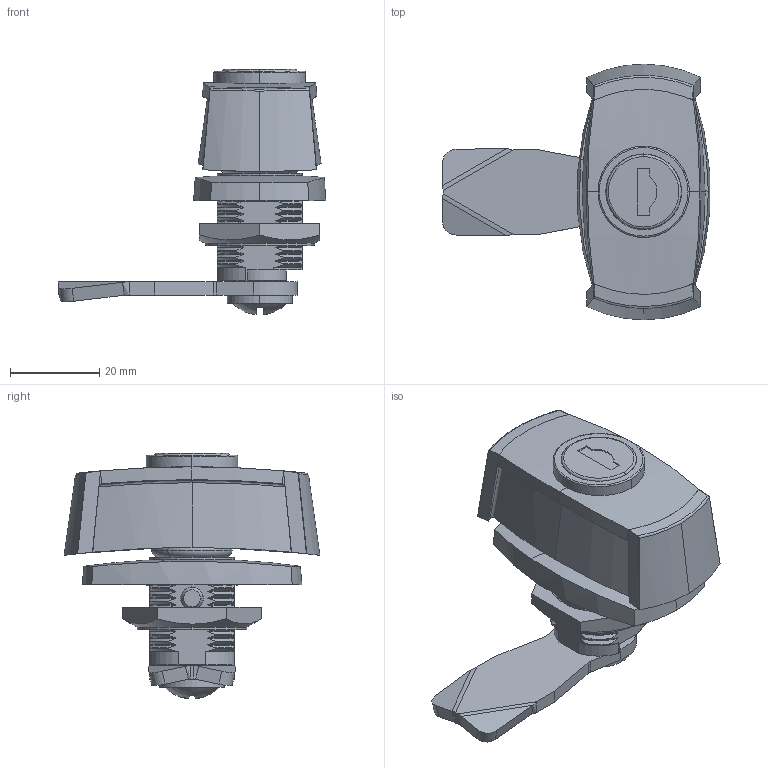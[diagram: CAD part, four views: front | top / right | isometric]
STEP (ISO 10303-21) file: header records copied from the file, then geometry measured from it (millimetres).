
FILE_DESCRIPTION (( 'STEP AP214' ), '1' );
FILE_NAME ('RW300.STEP', '2016-09-08T11:25:18', ( '' ), ( '' ), 'SwSTEP 2.0', 'SolidWorks 2015', '' );
FILE_SCHEMA (( 'AUTOMOTIVE_DESIGN' ));
Length unit declared in the file: millimetre
Products named in the file (13): 2.NKR_M22 - A1; 1C.J-1XX.GH.L_#3, 1.00.18.45; 1B.RW300.02.02.01_B; 1B.RW300.01.03.00_B; DIN 967_M6x12; DIN 915_M3 x 5; DIN 3771_12x3; 2.B.002_R.1333; 2.PM18.001.03_A; 1B.RW200.01_B; 1B.RW200.02.02.00_B; 1B.RW200.00.01_A; RW300
Assembly tree (12 placements, depth 3):
  RW300
    1B.RW200.01_B
      1B.RW200.00.01_A
      1B.RW200.02.02.00_B
    2.PM18.001.03_A
    2.B.002_R.1333
    DIN 3771_12x3
    DIN 915_M3 x 5
    DIN 967_M6x12
    1B.RW300.01.03.00_B
    1B.RW300.02.02.01_B
    1C.J-1XX.GH.L_#3, 1.00.18.45
    2.NKR_M22 - A1
Bounding box: 59.96 x 57.35 x 54.98 mm (x, y, z)
Volume: 39170.1 mm3; surface area: 23260.5 mm2
Topology: 11 solids, 11 shells, 675 faces, 1829 edges, 1168 vertices
Faces by surface type: plane 223, bspline 167, cylinder 151, cone 124, torus 8, sphere 2
Entity records: 32540 total; most frequent: CARTESIAN_POINT 16688, ORIENTED_EDGE 3606, DIRECTION 2669, EDGE_CURVE 1803, VERTEX_POINT 1160, AXIS2_PLACEMENT_3D 1057, EDGE_LOOP 695, B_SPLINE_CURVE_WITH_KNOTS 667
